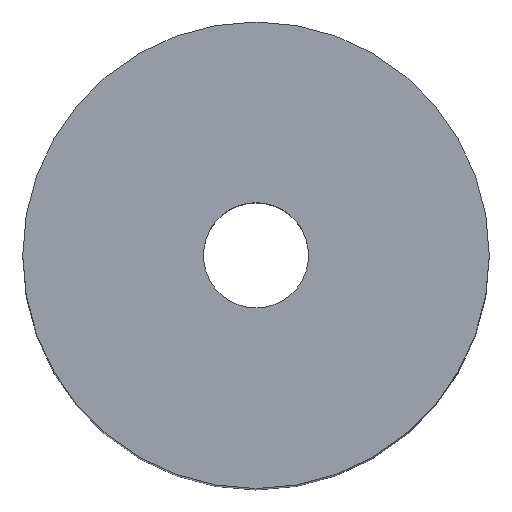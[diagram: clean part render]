
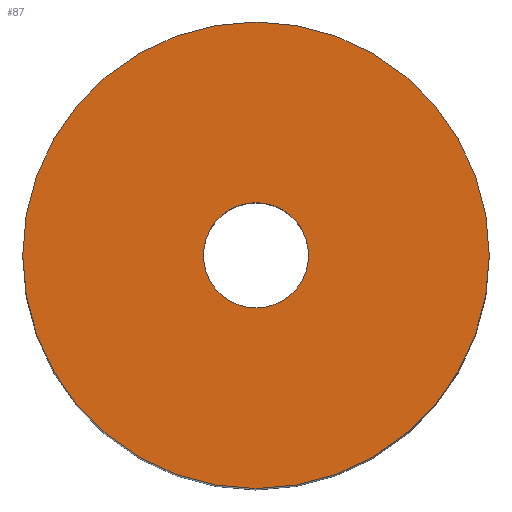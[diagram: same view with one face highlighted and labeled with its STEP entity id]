
A CAD part, top view. The second image highlights one B-rep face of the part: STEP entity #87.
In plain terms, the highlighted planar face has unit normal (0, 0, 1).
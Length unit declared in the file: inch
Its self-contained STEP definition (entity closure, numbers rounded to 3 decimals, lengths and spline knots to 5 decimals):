
#3 = EDGE_LOOP ( 'NONE', ( #262, #81 ) ) ;
#5 = DIRECTION ( 'NONE',  ( 1., 0., 0. ) ) ;
#7 = EDGE_CURVE ( 'NONE', #101, #298, #377, .T. ) ;
#10 = AXIS2_PLACEMENT_3D ( 'NONE', #51, #139, #351 ) ;
#19 = DIRECTION ( 'NONE',  ( 1., 0., 0. ) ) ;
#28 = CARTESIAN_POINT ( 'NONE',  ( 0., 0., 0. ) ) ;
#51 = CARTESIAN_POINT ( 'NONE',  ( 0., 0., 0. ) ) ;
#54 = CARTESIAN_POINT ( 'NONE',  ( -0.0795, 0., 0. ) ) ;
#58 = DIRECTION ( 'NONE',  ( 1., 0., 0. ) ) ;
#63 = CIRCLE ( 'NONE', #338, 0.3525 ) ;
#81 = ORIENTED_EDGE ( 'NONE', *, *, #103, .F. ) ;
#87 = ADVANCED_FACE ( 'NONE', ( #280, #197 ), #284, .F. ) ;
#89 = AXIS2_PLACEMENT_3D ( 'NONE', #28, #234, #58 ) ;
#91 = CARTESIAN_POINT ( 'NONE',  ( 0.0795, 0., 0. ) ) ;
#101 = VERTEX_POINT ( 'NONE', #54 ) ;
#103 = EDGE_CURVE ( 'NONE', #189, #317, #63, .T. ) ;
#111 = CARTESIAN_POINT ( 'NONE',  ( 0., 0., 0. ) ) ;
#118 = CIRCLE ( 'NONE', #89, 0.3525 ) ;
#120 = EDGE_LOOP ( 'NONE', ( #150, #272 ) ) ;
#133 = EDGE_CURVE ( 'NONE', #317, #189, #118, .T. ) ;
#139 = DIRECTION ( 'NONE',  ( 0., 0., -1. ) ) ;
#143 = DIRECTION ( 'NONE',  ( 1., 0., 0. ) ) ;
#148 = CARTESIAN_POINT ( 'NONE',  ( -0.3525, 0., 0. ) ) ;
#150 = ORIENTED_EDGE ( 'NONE', *, *, #309, .F. ) ;
#151 = CARTESIAN_POINT ( 'NONE',  ( 0.3525, 0., 0. ) ) ;
#183 = DIRECTION ( 'NONE',  ( 0., 0., 1. ) ) ;
#189 = VERTEX_POINT ( 'NONE', #148 ) ;
#195 = DIRECTION ( 'NONE',  ( 0., 0., 1. ) ) ;
#197 = FACE_BOUND ( 'NONE', #120, .T. ) ;
#234 = DIRECTION ( 'NONE',  ( 0., 0., -1. ) ) ;
#235 = AXIS2_PLACEMENT_3D ( 'NONE', #379, #195, #19 ) ;
#262 = ORIENTED_EDGE ( 'NONE', *, *, #133, .F. ) ;
#272 = ORIENTED_EDGE ( 'NONE', *, *, #7, .F. ) ;
#280 = FACE_OUTER_BOUND ( 'NONE', #3, .T. ) ;
#284 = PLANE ( 'NONE',  #10 ) ;
#298 = VERTEX_POINT ( 'NONE', #91 ) ;
#305 = AXIS2_PLACEMENT_3D ( 'NONE', #364, #183, #5 ) ;
#308 = CIRCLE ( 'NONE', #305, 0.0795 ) ;
#309 = EDGE_CURVE ( 'NONE', #298, #101, #308, .T. ) ;
#317 = VERTEX_POINT ( 'NONE', #151 ) ;
#323 = DIRECTION ( 'NONE',  ( 0., 0., -1. ) ) ;
#338 = AXIS2_PLACEMENT_3D ( 'NONE', #111, #323, #143 ) ;
#351 = DIRECTION ( 'NONE',  ( -1., 0., 0. ) ) ;
#364 = CARTESIAN_POINT ( 'NONE',  ( 0., 0., 0. ) ) ;
#377 = CIRCLE ( 'NONE', #235, 0.0795 ) ;
#379 = CARTESIAN_POINT ( 'NONE',  ( 0., 0., 0. ) ) ;
